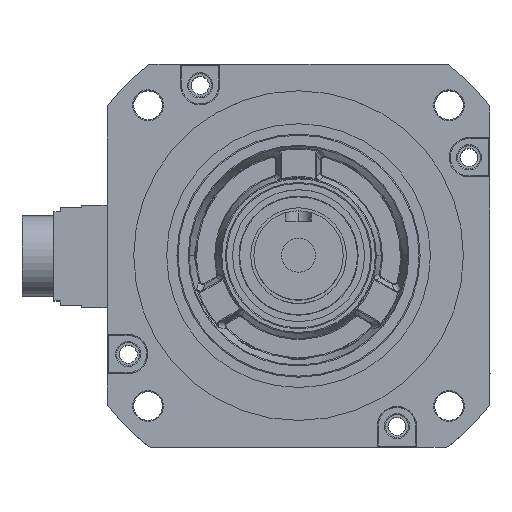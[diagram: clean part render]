
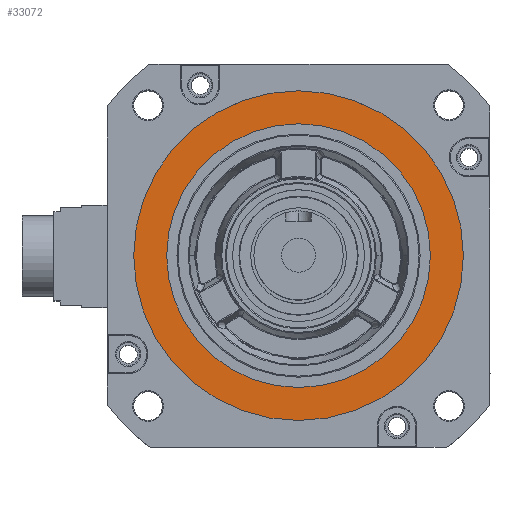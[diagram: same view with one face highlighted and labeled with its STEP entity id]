
A CAD part, top view. The second image highlights one B-rep face of the part: STEP entity #33072.
In plain terms, the highlighted planar face has unit normal (0, 0, 1).
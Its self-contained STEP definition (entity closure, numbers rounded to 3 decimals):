
#21693=CARTESIAN_POINT('Vertex',(68.644,3.946,32.604)) ;
#21700=CARTESIAN_POINT('Vertex',(-86.356,3.946,32.604)) ;
#21703=CARTESIAN_POINT('Axis2P3D Location',(-8.856,3.946,32.604)) ;
#21715=CARTESIAN_POINT('Axis2P3D Location',(-8.856,3.946,32.604)) ;
#33045=CARTESIAN_POINT('Axis2P3D Location',(-8.856,3.946,32.604)) ;
#33054=CARTESIAN_POINT('Axis2P3D Location',(-8.856,3.946,32.604)) ;
#33058=CARTESIAN_POINT('Vertex',(-70.856,3.946,32.604)) ;
#33060=CARTESIAN_POINT('Vertex',(53.144,3.946,32.604)) ;
#33063=CARTESIAN_POINT('Axis2P3D Location',(-8.856,3.946,32.604)) ;
#21704=DIRECTION('Axis2P3D Direction',(0.,0.,1.)) ;
#21716=DIRECTION('Axis2P3D Direction',(0.,0.,1.)) ;
#33046=DIRECTION('Axis2P3D Direction',(0.,0.,1.)) ;
#33047=DIRECTION('Axis2P3D XDirection',(1.,0.,0.)) ;
#33055=DIRECTION('Axis2P3D Direction',(0.,0.,1.)) ;
#33064=DIRECTION('Axis2P3D Direction',(0.,0.,1.)) ;
#21705=AXIS2_PLACEMENT_3D('Circle Axis2P3D',#21703,#21704,$) ;
#21717=AXIS2_PLACEMENT_3D('Circle Axis2P3D',#21715,#21716,$) ;
#33048=AXIS2_PLACEMENT_3D('Plane Axis2P3D',#33045,#33046,#33047) ;
#33056=AXIS2_PLACEMENT_3D('Circle Axis2P3D',#33054,#33055,$) ;
#33065=AXIS2_PLACEMENT_3D('Circle Axis2P3D',#33063,#33064,$) ;
#33051=ORIENTED_EDGE('',*,*,#21707,.T.) ;
#33052=ORIENTED_EDGE('',*,*,#21719,.T.) ;
#33069=ORIENTED_EDGE('',*,*,#33062,.F.) ;
#33070=ORIENTED_EDGE('',*,*,#33067,.F.) ;
#33071=FACE_BOUND('',#33068,.T.) ;
#33072=ADVANCED_FACE('\X2\96F64EF651E04F554F53\X0\',(#33053,#33071),#33049,.T.) ;
#21706=CIRCLE('generated circle',#21705,77.5) ;
#21718=CIRCLE('generated circle',#21717,77.5) ;
#33057=CIRCLE('generated circle',#33056,62.) ;
#33066=CIRCLE('generated circle',#33065,62.) ;
#21707=EDGE_CURVE('',#21694,#21701,#21706,.T.) ;
#21719=EDGE_CURVE('',#21701,#21694,#21718,.T.) ;
#33062=EDGE_CURVE('',#33059,#33061,#33057,.T.) ;
#33067=EDGE_CURVE('',#33061,#33059,#33066,.T.) ;
#33050=EDGE_LOOP('',(#33051,#33052)) ;
#33068=EDGE_LOOP('',(#33069,#33070)) ;
#33053=FACE_OUTER_BOUND('',#33050,.T.) ;
#33049=PLANE('Plane',#33048) ;
#21694=VERTEX_POINT('',#21693) ;
#21701=VERTEX_POINT('',#21700) ;
#33059=VERTEX_POINT('',#33058) ;
#33061=VERTEX_POINT('',#33060) ;
